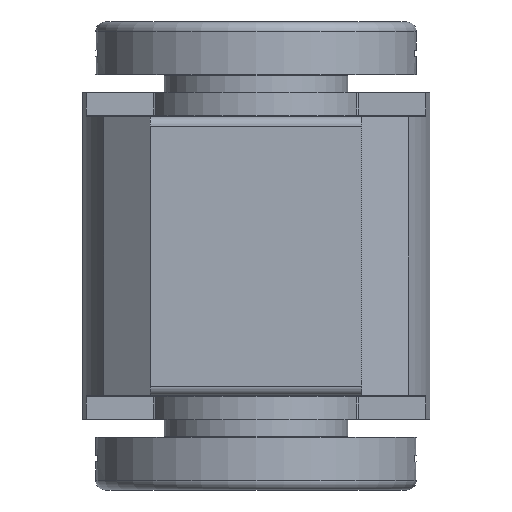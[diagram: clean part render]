
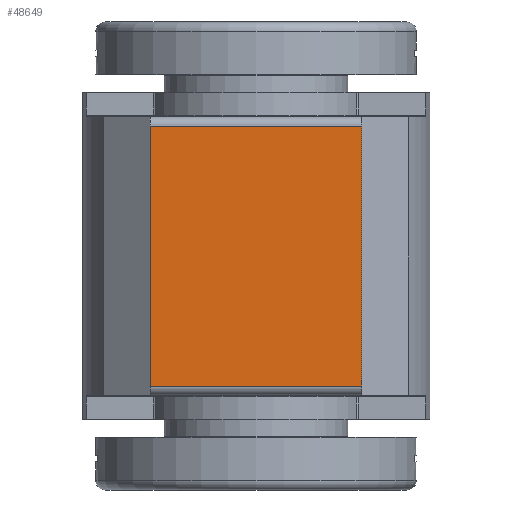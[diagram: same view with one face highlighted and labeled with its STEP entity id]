
A CAD part, front view. The second image highlights one B-rep face of the part: STEP entity #48649.
In plain terms, the highlighted planar face has unit normal (0, -1, 0).
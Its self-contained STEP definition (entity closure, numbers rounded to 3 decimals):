
#3283=PLANE('',#51965);
#5769=FACE_OUTER_BOUND('',#8600,.T.);
#8600=EDGE_LOOP('',(#42613,#42614,#42615,#42616));
#12687=LINE('',#84984,#17126);
#12984=LINE('',#86768,#17423);
#12986=LINE('',#86774,#17425);
#13070=LINE('',#87188,#17509);
#17126=VECTOR('',#61340,10.);
#17423=VECTOR('',#62437,10.);
#17425=VECTOR('',#62445,10.);
#17509=VECTOR('',#62877,10.);
#22633=VERTEX_POINT('',#84974);
#22637=VERTEX_POINT('',#84982);
#22952=VERTEX_POINT('',#86766);
#22953=VERTEX_POINT('',#86772);
#28885=EDGE_CURVE('',#22637,#22633,#12687,.T.);
#29410=EDGE_CURVE('',#22952,#22637,#12984,.T.);
#29413=EDGE_CURVE('',#22633,#22953,#12986,.T.);
#29582=EDGE_CURVE('',#22953,#22952,#13070,.T.);
#42613=ORIENTED_EDGE('',*,*,#29410,.F.);
#42614=ORIENTED_EDGE('',*,*,#29582,.F.);
#42615=ORIENTED_EDGE('',*,*,#29413,.F.);
#42616=ORIENTED_EDGE('',*,*,#28885,.F.);
#48649=ADVANCED_FACE('',(#5769),#3283,.T.);
#51965=AXIS2_PLACEMENT_3D('',#87187,#62875,#62876);
#61340=DIRECTION('',(0.,0.,-1.));
#62437=DIRECTION('',(1.,0.,0.));
#62445=DIRECTION('',(-1.,0.,0.));
#62875=DIRECTION('center_axis',(0.,-1.,0.));
#62876=DIRECTION('ref_axis',(1.,0.,0.));
#62877=DIRECTION('',(0.,0.,1.));
#84974=CARTESIAN_POINT('',(34.5,-65.5,-42.5));
#84982=CARTESIAN_POINT('',(34.5,-65.5,42.5));
#84984=CARTESIAN_POINT('',(34.5,-65.5,0.));
#86766=CARTESIAN_POINT('',(-34.5,-65.5,42.5));
#86768=CARTESIAN_POINT('',(33.322,-65.5,42.5));
#86772=CARTESIAN_POINT('',(-34.5,-65.5,-42.5));
#86774=CARTESIAN_POINT('',(29.367,-65.5,-42.5));
#87187=CARTESIAN_POINT('Origin',(-34.5,-65.5,0.));
#87188=CARTESIAN_POINT('',(-34.5,-65.5,0.));
